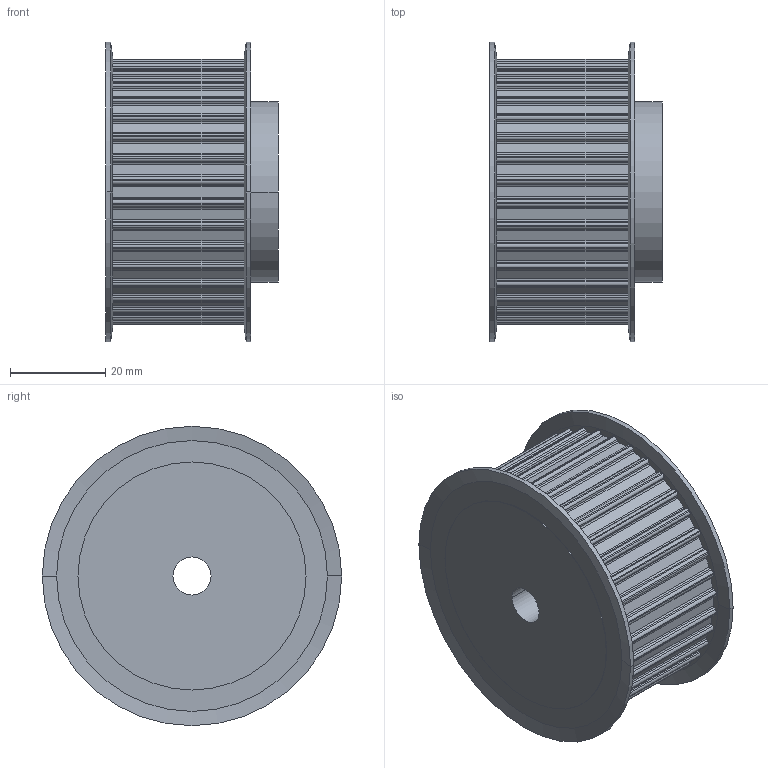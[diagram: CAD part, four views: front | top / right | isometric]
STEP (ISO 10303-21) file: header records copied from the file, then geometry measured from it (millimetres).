
FILE_DESCRIPTION( ( '' ), '1' );
FILE_NAME( 'C:/Users/Stangenbergd/Documents/CAD_Step/1/16643600.stp', '2021-10-19T09:38:23', ( '' ), ( '' ), ' ', ' ', ' ' );
FILE_SCHEMA( ( 'CONFIG_CONTROL_DESIGN' ) );
Length unit declared in the file: millimetre
Products named in the file (1): 1
Bounding box: 36.27 x 63 x 63 mm (x, y, z)
Volume: 76680.9 mm3; surface area: 15613.1 mm2
Topology: 1 solids, 1 shells, 315 faces, 916 edges, 608 vertices
Faces by surface type: cylinder 192, plane 115, cone 8
Entity records: 10606 total; most frequent: DIRECTION 1940, CARTESIAN_POINT 1840, ORIENTED_EDGE 1832, EDGE_CURVE 916, AXIS2_PLACEMENT_3D 708, VERTEX_POINT 608, LINE 524, VECTOR 524
